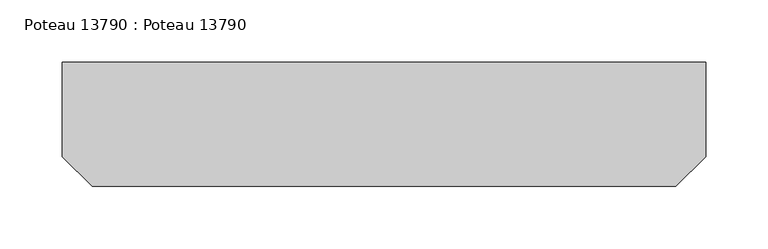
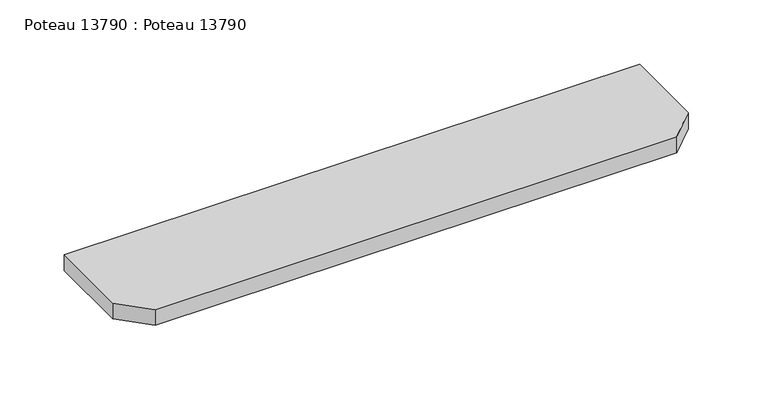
"""IFC4 building model written with IfcOpenShell, lengths in millimetres: beam geometry, Poteau 13790 : Poteau 13790."""

from ifc_helpers import new_model, si_unit, frame, origin, place, context, project, spatial, polyline, outline, extrude, source, transform, mapped, element, save


def poteau_13790_poteau_13790_2f5418e6(model_context):
    return source(origin(), model_context, "Body", "SweptSolid", [
        extrude(outline(polyline([(328.7999999, -114.45), (-138.8000001, -114.45), (-162.8000001, -90.45), (-162.8000001, -15.0), (352.7999999, -15.0), (352.7999999, -90.45), (328.7999999, -114.45)])), frame((0.0, 0.0, 6919.9591548), z_axis=(0.0, 0.0, 1.0), x_axis=(1.0, 0.0, 0.0)), (0.0, 0.0, 1.0), 15.0),
    ])


if __name__ == "__main__":
    model = new_model("IFC4")
    model_context = context("Model", 3, world=origin())
    ifc_project = project(units=[si_unit("LENGTHUNIT", "METRE", prefix="MILLI")], contexts=[model_context])
    site = spatial("IfcSite", under=ifc_project)
    building = spatial("IfcBuilding", under=site)
    placement = place(None, origin())
    poteau_13790_poteau_13790_shape = poteau_13790_poteau_13790_2f5418e6(model_context)
    element("IfcBeam", 1, ObjectType="Poteau 13790 : Poteau 13790", at=placement, inside=building, context=model_context, shape_type="MappedRepresentation", body=[
        mapped(poteau_13790_poteau_13790_shape, transform((0.0, 0.0, 0.0), x_axis=(1.0, 0.0, 0.0), y_axis=(0.0, 1.0, 0.0), z_axis=(0.0, 0.0, 1.0))),
    ])
    save(model, "model.ifc")
